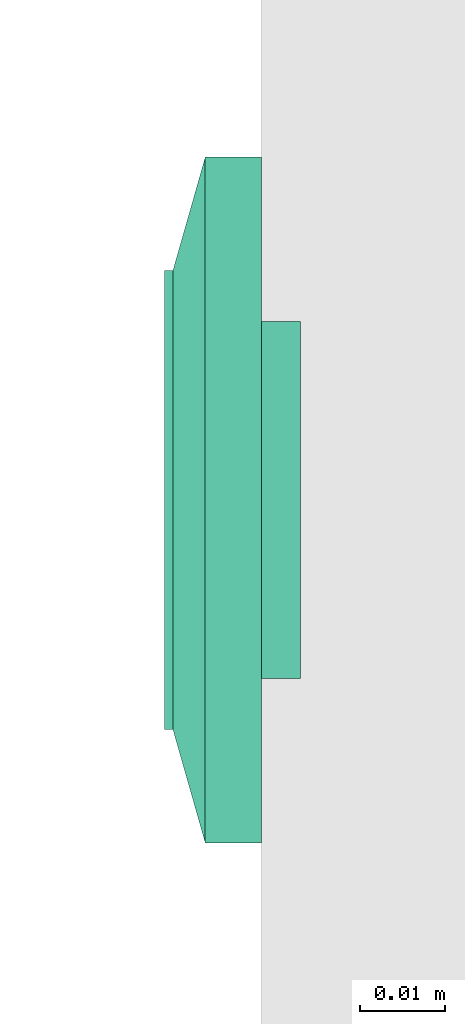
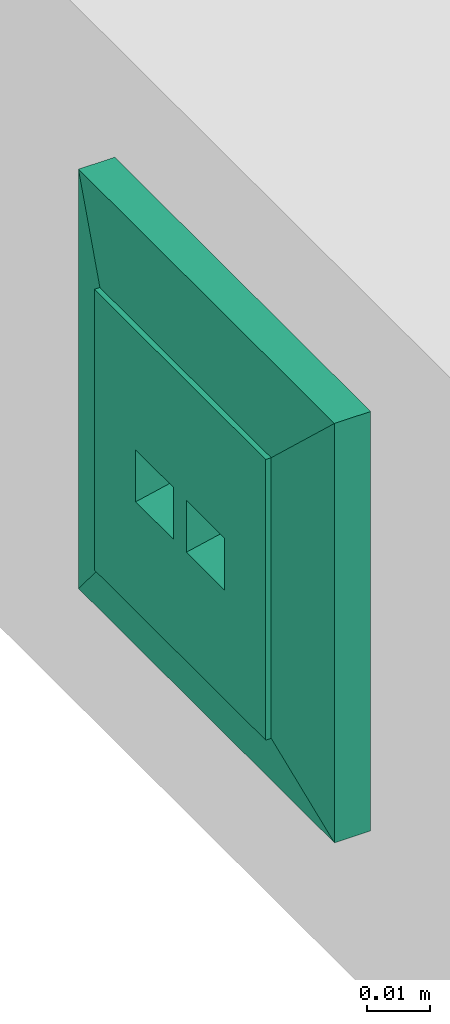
# One storey, part 21 of 166: 1 flow terminal.
"""IFC2X3 building model written with IfcOpenShell, lengths in metres."""

from ifc_helpers import new_model, entity, si_unit, converted_unit, derived_unit, direction, frame, origin, place, context, subcontext, project, spatial, faceted_brep, source, transform, mapped, type_object, type_shapes, element, save


model = new_model("IFC2X3")

# Units and contexts
model_context = context("Model", 3, precision=1e-05, world=origin(), true_north=direction((6.12303176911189e-17, 1.0)))
body_context = subcontext(model_context, "Body", "Model", "MODEL_VIEW")
ifc_project = project(units=[si_unit("LENGTHUNIT", "METRE"), si_unit("AREAUNIT", "SQUARE_METRE"), si_unit("VOLUMEUNIT", "CUBIC_METRE"), converted_unit("PLANEANGLEUNIT", "DEGREE", entity("IfcRatioMeasure", 0.0174532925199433), si_unit("PLANEANGLEUNIT", "RADIAN"), dimensions=[0, 0, 0, 0, 0, 0, 0]), si_unit("MASSUNIT", "GRAM", prefix="KILO"), derived_unit("MASSDENSITYUNIT", [(si_unit("MASSUNIT", "GRAM", prefix="KILO"), 1), (si_unit("LENGTHUNIT", "METRE"), -3)]), si_unit("TIMEUNIT", "SECOND"), si_unit("FREQUENCYUNIT", "HERTZ"), si_unit("THERMODYNAMICTEMPERATUREUNIT", "DEGREE_CELSIUS"), derived_unit("THERMALTRANSMITTANCEUNIT", [(si_unit("MASSUNIT", "GRAM", prefix="KILO"), 1), (si_unit("THERMODYNAMICTEMPERATUREUNIT", "KELVIN"), -1), (si_unit("TIMEUNIT", "SECOND"), -3)]), derived_unit("VOLUMETRICFLOWRATEUNIT", [(si_unit("LENGTHUNIT", "METRE"), 3), (si_unit("TIMEUNIT", "SECOND"), -1)]), si_unit("ELECTRICCURRENTUNIT", "AMPERE"), si_unit("ELECTRICVOLTAGEUNIT", "VOLT"), si_unit("POWERUNIT", "WATT"), si_unit("FORCEUNIT", "NEWTON"), si_unit("ILLUMINANCEUNIT", "LUX"), si_unit("LUMINOUSFLUXUNIT", "LUMEN"), si_unit("LUMINOUSINTENSITYUNIT", "CANDELA"), derived_unit("USERDEFINED", [(si_unit("MASSUNIT", "GRAM", prefix="KILO"), -1), (si_unit("LENGTHUNIT", "METRE"), -2), (si_unit("TIMEUNIT", "SECOND"), 3), (si_unit("LUMINOUSFLUXUNIT", "LUMEN"), 1)]), derived_unit("LINEARVELOCITYUNIT", [(si_unit("LENGTHUNIT", "METRE"), 1), (si_unit("TIMEUNIT", "SECOND"), -1)]), si_unit("PRESSUREUNIT", "PASCAL"), derived_unit("USERDEFINED", [(si_unit("LENGTHUNIT", "METRE"), -2), (si_unit("MASSUNIT", "GRAM", prefix="KILO"), 1), (si_unit("TIMEUNIT", "SECOND"), -2)])], contexts=[model_context])

# Site, building, storey
site_placement = place(None, origin())
site = spatial("IfcSite", under=ifc_project, at=site_placement, Name="Default", CompositionType="ELEMENT")
building_placement = place(site_placement, origin())
building = spatial("IfcBuilding", under=site, at=building_placement, CompositionType="ELEMENT")
storey_placement = place(building_placement, frame((0.0, 0.0, 4.27)))
storey = spatial("IfcBuildingStorey", under=building, at=storey_placement, Name="01", CompositionType="ELEMENT", Elevation=4.27)

# Flow terminal
electric_appliance_type = type_object("IfcElectricApplianceType", Name="RJ45 IP20", PredefinedType="NOTDEFINED")
shared_shape = source(origin(), body_context, "Body", "Brep", [
    faceted_brep([(0.00200000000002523, 0.0, 0.00799999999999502), (0.00400000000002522, 0.0, 0.00799999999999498), (0.00500000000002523, 0.00199999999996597, 0.00799999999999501), (0.0110000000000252, 0.00199999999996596, 0.00799999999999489), (0.0120000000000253, 0.0, 0.00799999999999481), (0.0140000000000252, 0.0, 0.00799999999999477), (0.0140000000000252, 0.00399999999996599, 0.00799999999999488), (0.00200000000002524, 0.00399999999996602, 0.00799999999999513), (0.00200000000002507, 0.0, 0.0), (0.00200000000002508, 0.00399999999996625, 0.0), (0.0140000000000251, 0.00399999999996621, 0.0), (0.0140000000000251, 0.0, 0.0), (0.0120000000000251, 0.0, 0.0), (0.0110000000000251, 0.00199999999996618, 0.0), (0.00500000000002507, 0.0019999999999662, 0.0), (0.00400000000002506, 0.0, 0.0)], [[[0, 1, 2, 3, 4, 5, 6, 7]], [[8, 9, 10, 11, 12, 13, 14, 15]], [[1, 0, 8, 15]], [[2, 1, 15, 14]], [[3, 2, 14, 13]], [[4, 3, 13, 12]], [[5, 4, 12, 11]], [[6, 5, 11, 10]], [[7, 6, 10, 9]], [[0, 7, 9, 8]]]),
    faceted_brep([(-0.0139999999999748, 0.0, 0.00799999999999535), (-0.0119999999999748, 0.0, 0.00799999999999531), (-0.0109999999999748, 0.00199999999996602, 0.00799999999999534), (-0.00499999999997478, 0.00199999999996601, 0.00799999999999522), (-0.0039999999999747, 0.0, 0.00799999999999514), (-0.00199999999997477, 0.0, 0.0079999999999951), (-0.00199999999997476, 0.00399999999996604, 0.00799999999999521), (-0.0139999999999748, 0.00399999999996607, 0.00799999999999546), (-0.0139999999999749, 0.0, 0.0), (-0.0139999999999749, 0.00399999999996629, 0.0), (-0.00199999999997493, 0.00399999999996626, 0.0), (-0.00199999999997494, 0.0, 0.0), (-0.00399999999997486, 0.0, 0.0), (-0.00499999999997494, 0.00199999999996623, 0.0), (-0.0109999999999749, 0.00199999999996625, 0.0), (-0.0119999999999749, 0.0, 0.0)], [[[0, 1, 2, 3, 4, 5, 6, 7]], [[8, 9, 10, 11, 12, 13, 14, 15]], [[1, 0, 8, 15]], [[2, 1, 15, 14]], [[3, 2, 14, 13]], [[4, 3, 13, 12]], [[5, 4, 12, 11]], [[6, 5, 11, 10]], [[7, 6, 10, 9]], [[0, 7, 9, 8]]]),
    faceted_brep([(0.0140000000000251, 0.00399999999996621, 0.0), (0.00200000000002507, 0.00399999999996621, 0.0), (0.00200000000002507, -0.00350000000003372, 0.0), (0.0140000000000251, -0.00350000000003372, 0.0), (0.0140000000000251, 0.00399999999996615, 0.00199999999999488), (0.00200000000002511, 0.00399999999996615, 0.00199999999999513), (0.00200000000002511, -0.00393859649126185, 0.00199999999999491), (0.0140000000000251, -0.00393859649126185, 0.00199999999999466), (0.0210000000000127, 0.0209999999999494, 0.00199999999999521), (-0.0209999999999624, 0.0209999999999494, 0.00199999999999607), (-0.0209999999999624, -0.0210000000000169, 0.00199999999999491), (0.0210000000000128, -0.0210000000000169, 0.00199999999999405), (-0.0139999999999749, 0.0039999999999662, 0.00199999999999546), (-0.0019999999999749, 0.0039999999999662, 0.00199999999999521), (-0.00199999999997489, -0.0039385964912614, 0.00199999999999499), (-0.0139999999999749, -0.00393859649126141, 0.00199999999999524), (0.0210000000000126, 0.0209999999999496, -0.00460000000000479), (0.0210000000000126, -0.0210000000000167, -0.00460000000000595), (-0.0209999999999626, -0.0210000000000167, -0.00460000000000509), (-0.0209999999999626, 0.0209999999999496, -0.00460000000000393), (-0.00199999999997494, 0.00399999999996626, 0.0), (-0.0139999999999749, 0.00399999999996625, 0.0), (-0.0139999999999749, -0.00350000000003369, 0.0), (-0.00199999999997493, -0.00350000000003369, 0.0)], [[[0, 1, 2, 3]], [[1, 0, 4, 5]], [[2, 1, 5, 6]], [[3, 2, 6, 7]], [[0, 3, 7, 4]], [[5, 4, 7, 6], [8, 9, 10, 11], [12, 13, 14, 15]], [[16, 17, 18, 19]], [[9, 8, 16, 19]], [[10, 9, 19, 18]], [[11, 10, 18, 17]], [[8, 11, 17, 16]], [[20, 21, 22, 23]], [[21, 20, 13, 12]], [[22, 21, 12, 15]], [[23, 22, 15, 14]], [[20, 23, 14, 13]]], outer=[[True], [True], [True], [True], [True], [False, True, False], [True], [True], [True], [True], [True], [True], [True], [True], [True], [True]]),
    faceted_brep([(0.0270000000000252, 0.026999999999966, 0.0113999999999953), (-0.0269999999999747, 0.026999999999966, 0.0113999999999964), (-0.0269999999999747, -0.0270000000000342, 0.0113999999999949), (0.0270000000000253, -0.0270000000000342, 0.0113999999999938), (0.0020000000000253, 0.00399999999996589, 0.0113999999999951), (0.0140000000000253, 0.00399999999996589, 0.0113999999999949), (0.0140000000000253, -0.00600000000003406, 0.0113999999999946), (0.0020000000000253, -0.00600000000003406, 0.0113999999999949), (-0.0139999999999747, 0.00399999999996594, 0.0113999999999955), (-0.00199999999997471, 0.00399999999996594, 0.0113999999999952), (-0.00199999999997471, -0.0060000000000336, 0.0113999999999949), (-0.0139999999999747, -0.00600000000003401, 0.0113999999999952), (0.0270000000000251, 0.0269999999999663, 0.00199999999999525), (0.0270000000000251, -0.0270000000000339, 0.00199999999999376), (-0.0269999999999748, -0.0270000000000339, 0.00199999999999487), (-0.0269999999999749, 0.0269999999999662, 0.00199999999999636), (0.0140000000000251, 0.00399999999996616, 0.00199999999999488), (0.00200000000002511, 0.00399999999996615, 0.00199999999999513), (0.00200000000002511, -0.00393859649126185, 0.00199999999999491), (0.0140000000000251, -0.00393859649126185, 0.00199999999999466), (-0.00199999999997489, 0.0039999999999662, 0.00199999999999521), (-0.0139999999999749, 0.0039999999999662, 0.00199999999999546), (-0.0139999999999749, -0.0039385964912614, 0.00199999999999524), (-0.00199999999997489, -0.0039385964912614, 0.00199999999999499)], [[[0, 1, 2, 3], [4, 5, 6, 7], [8, 9, 10, 11]], [[12, 13, 14, 15], [16, 17, 18, 19], [20, 21, 22, 23]], [[1, 0, 12, 15]], [[2, 1, 15, 14]], [[3, 2, 14, 13]], [[0, 3, 13, 12]], [[4, 17, 16, 5]], [[17, 4, 7, 18]], [[18, 7, 6, 19]], [[5, 16, 19, 6]], [[8, 21, 20, 9]], [[21, 8, 11, 22]], [[22, 11, 10, 23]], [[9, 20, 23, 10]]]),
    faceted_brep([(0.027000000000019, 0.0269999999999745, 0.00659999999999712), (-0.0269999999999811, 0.0269999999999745, 0.00659999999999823), (-0.026999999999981, -0.0270000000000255, 0.00659999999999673), (0.027000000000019, -0.0270000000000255, 0.00659999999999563), (0.040350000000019, 0.0403499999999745, 0.00659999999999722), (0.040350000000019, -0.0403500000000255, 0.00659999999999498), (-0.0403499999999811, -0.0403500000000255, 0.00659999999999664), (-0.0403499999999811, 0.0403499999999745, 0.00659999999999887), (-0.026999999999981, 0.0269999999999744, 0.0103999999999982), (0.027000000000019, 0.0269999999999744, 0.0103999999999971), (-0.026999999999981, -0.0270000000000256, 0.0103999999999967), (0.027000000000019, -0.0270000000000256, 0.0103999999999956)], [[[0, 1, 2, 3], [4, 5, 6, 7]], [[4, 7, 8, 9]], [[7, 6, 10, 8]], [[6, 5, 11, 10]], [[5, 4, 9, 11]], [[0, 9, 8, 1]], [[1, 8, 10, 2]], [[2, 10, 11, 3]], [[9, 0, 3, 11]]], outer=[[False, True], [True], [True], [True], [True], [True], [True], [True], [True]]),
    faceted_brep([(0.040350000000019, 0.0403499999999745, 0.00659999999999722), (-0.0403499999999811, 0.0403499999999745, 0.00659999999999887), (-0.0403499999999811, -0.0403500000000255, 0.00659999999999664), (0.040350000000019, -0.0403500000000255, 0.00659999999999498), (-0.0269999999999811, 0.0269999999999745, 0.00659999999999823), (0.0270000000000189, 0.0269999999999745, 0.00659999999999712), (0.0270000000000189, -0.0270000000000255, 0.00659999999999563), (-0.0269999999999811, -0.0270000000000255, 0.00659999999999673), (0.0403500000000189, 0.0403499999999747, 0.0), (0.0403500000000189, -0.0403500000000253, 0.0), (-0.0403499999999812, -0.0403500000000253, 0.0), (-0.0403499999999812, 0.0403499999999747, 0.0), (0.0270000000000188, 0.0269999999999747, 0.0), (-0.0269999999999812, 0.0269999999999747, 0.0), (-0.0269999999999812, -0.0270000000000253, 0.0), (0.0270000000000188, -0.0270000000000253, 0.0)], [[[0, 1, 2, 3], [4, 5, 6, 7]], [[8, 9, 10, 11], [12, 13, 14, 15]], [[1, 0, 8, 11]], [[2, 1, 11, 10]], [[3, 2, 10, 9]], [[0, 3, 9, 8]], [[12, 5, 4, 13]], [[13, 4, 7, 14]], [[14, 7, 6, 15]], [[5, 12, 15, 6]]]),
])
type_shapes(electric_appliance_type, [shared_shape])
flow_terminal_placement = place(building_placement, frame((29.3537440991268, -192.525423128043, 4.70800000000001), z_axis=(-1.0, 0.0, 0.0), x_axis=(0.0, -1.0, 0.0)))
element("IfcFlowTerminal", 1, at=flow_terminal_placement, inside=storey, type_object=electric_appliance_type, Name="INT_Prise RJ45:RJ45 IP20", ObjectType="INT_Prise RJ45:RJ45 IP20", context=body_context, shape_type="MappedRepresentation", body=[
    mapped(shared_shape, transform((0.0, 0.0, 0.0), scale=1.0)),
])

save(model, "model.ifc")
